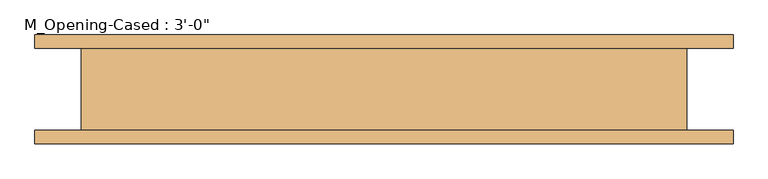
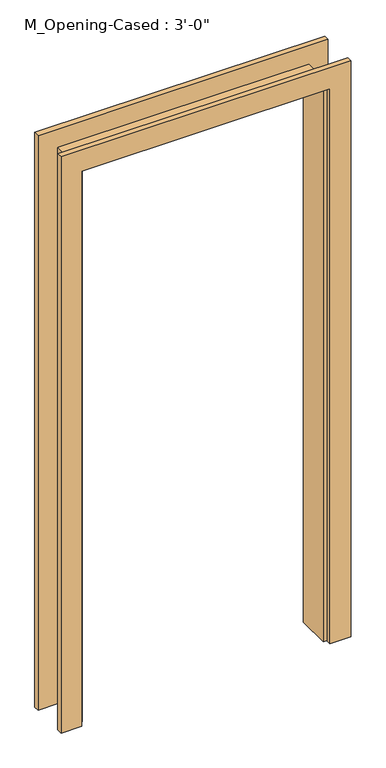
"""IFC4 building model written with IfcOpenShell, lengths in millimetres: door geometry."""

from ifc_helpers import new_model, si_unit, frame, origin, place, context, project, spatial, polyline, outline, extrude, faceted_brep, source, transform, mapped, element, save


def door_c8d27089(model_context):
    return source(origin(), model_context, "Body", "SolidModel", [
        extrude(outline(polyline([(0.0, -459.0386567), (2127.25, -459.0386567), (2127.25, 442.6613433), (0.0, 442.6613433), (0.0, 517.6613433), (2202.25, 517.6613433), (2202.25, -534.0386567), (0.0, -534.0386567), (0.0, -459.0386567)])), frame((0.0, 61.9125, 0.0), z_axis=(0.0, 1.0, 0.0), x_axis=(0.0, 0.0, 1.0)), (0.0, 0.0, 1.0), 20.0),
        extrude(outline(polyline([(0.0, 517.6613433), (2207.65, 517.6613433), (2207.65, -534.0386567), (0.0, -534.0386567), (0.0, -459.0386567), (2127.25, -459.0386567), (2127.25, 442.6613433), (0.0, 442.6613433), (0.0, 517.6613433)])), frame((0.0, -81.9125, 0.0), z_axis=(0.0, 1.0, 0.0), x_axis=(0.0, 0.0, 1.0)), (0.0, 0.0, 1.0), 20.0),
        faceted_brep([(429.0113433, -61.9125, 0.0), (429.0113433, 61.9125, 0.0), (448.0613433, 61.9125, 0.0), (448.0613433, -61.9125, 0.0), (448.0613433, -61.9125, 2132.65), (429.0113433, -61.9125, 2113.6), (448.0613433, 61.9125, 2132.65), (429.0113433, 61.9125, 2113.6), (-445.3886567, -61.9125, 0.0), (-464.4386567, -61.9125, 0.0), (-464.4386567, 61.9125, 0.0), (-445.3886567, 61.9125, 0.0), (-445.3886567, -61.9125, 2113.6), (-445.3886567, 61.9125, 2113.6), (-464.4386567, 61.9125, 2132.65), (-464.4386567, -61.9125, 2132.65)], [[[0, 1, 2, 3]], [[3, 4, 5, 0]], [[2, 6, 4, 3]], [[1, 7, 6, 2]], [[0, 5, 7, 1]], [[8, 9, 10, 11]], [[12, 8, 11, 13]], [[13, 11, 10, 14]], [[14, 10, 9, 15]], [[15, 9, 8, 12]], [[4, 15, 12, 5]], [[6, 14, 15, 4]], [[7, 13, 14, 6]], [[5, 12, 13, 7]]]),
    ])


if __name__ == "__main__":
    model = new_model("IFC4")
    model_context = context("Model", 3, world=origin())
    ifc_project = project(units=[si_unit("LENGTHUNIT", "METRE", prefix="MILLI")], contexts=[model_context])
    site = spatial("IfcSite", under=ifc_project)
    building = spatial("IfcBuilding", under=site)
    placement = place(None, origin())
    door_shape = door_c8d27089(model_context)
    element("IfcDoor", 1, ObjectType="M_Opening-Cased : 3'-0\"", at=placement, inside=building, context=model_context, shape_type="MappedRepresentation", body=[
        mapped(door_shape, transform((0.0, 0.0, 0.0), x_axis=(1.0, 0.0, 0.0), y_axis=(0.0, 1.0, 0.0), z_axis=(0.0, 0.0, 1.0))),
    ])
    save(model, "model.ifc")
